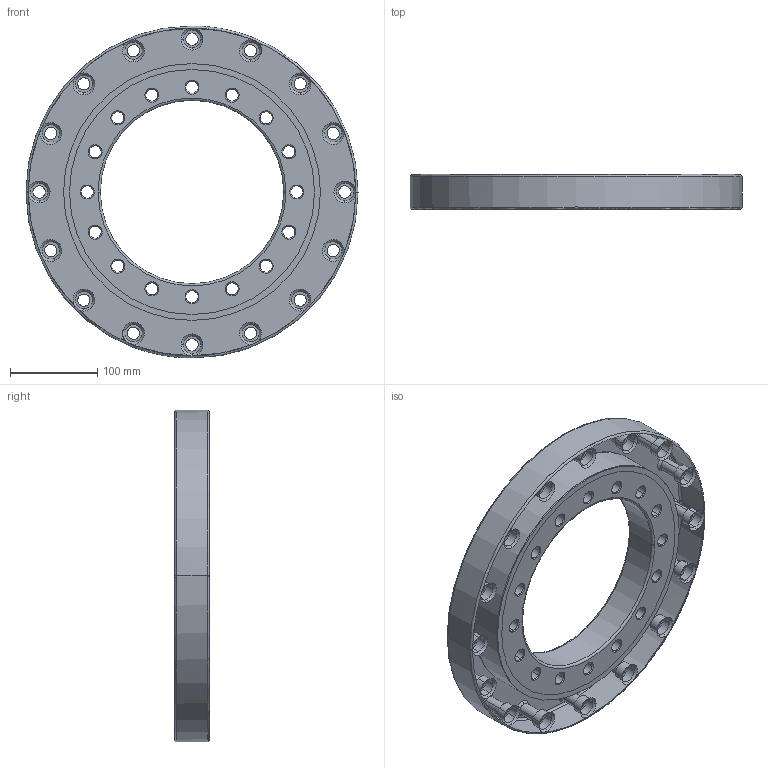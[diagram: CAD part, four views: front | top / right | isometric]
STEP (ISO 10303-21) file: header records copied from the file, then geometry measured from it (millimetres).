
FILE_DESCRIPTION(('no description'),'unknown implementation level');
FILE_NAME('CRBE21040C_67.stp',' ',('HIWIN GmbH'),('CADClick - KiM GmbH - www.kimweb.de'),'unknown preprocess','ACIS','unknown authorization');
FILE_SCHEMA(('automotive_design'));
Length unit declared in the file: millimetre
Products named in the file (4): CRBE21040C_1; CRBE21040C_2; CRBE21040C_3; CRBE21040C
Bounding box: 380 x 40 x 380 mm (x, y, z)
Volume: 2648590.3 mm3; surface area: 368665.1 mm2
Topology: 4 solids, 4 shells, 440 faces, 1093 edges, 677 vertices
Faces by surface type: cone 240, cylinder 144, plane 40, torus 16
Entity records: 25893 total; most frequent: DIRECTION 2690, STYLED_ITEM 2214, PRESENTATION_STYLE_ASSIGNMENT 2214, CARTESIAN_POINT 2214, COLOUR_RGB 2214, ORIENTED_EDGE 2186, AXIS2_PLACEMENT_3D 1153, EDGE_CURVE 1093
